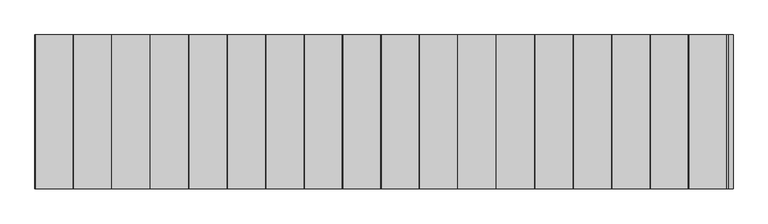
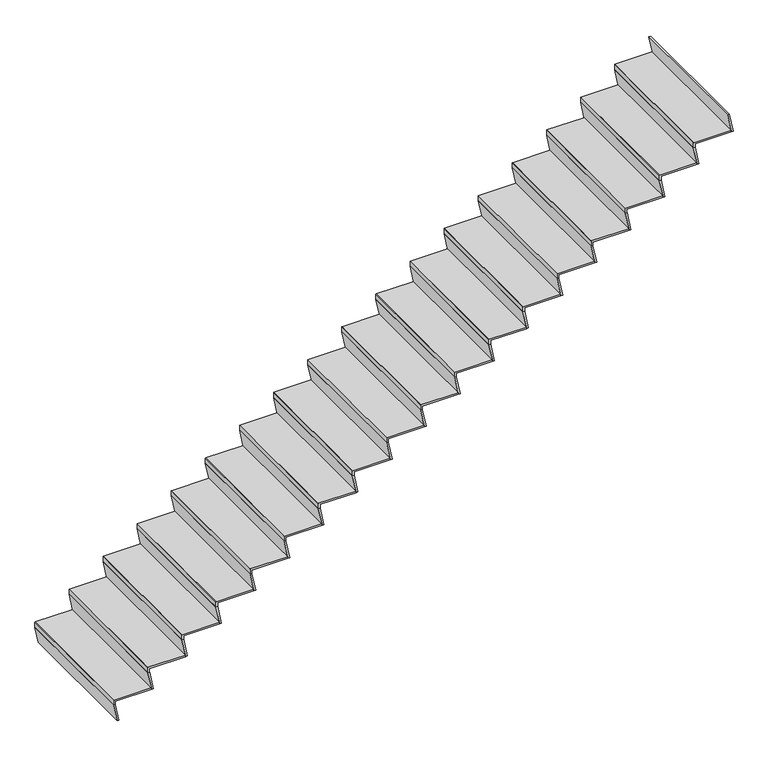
"""IFC4 building model written with IfcOpenShell, lengths in millimetres: stair flight geometry, Forte_StairNosingRun_12.5mmTread_Raked."""

import ifcopenshell
import ifcopenshell.guid

model = None  # the IFC model being written
_history = None  # IfcOwnerHistory: only IFC2X3 demands one
_inside = {}  # id of a spatial element -> (the spatial element, [elements in it])
_under = {}  # id of a project, library or spatial element -> (it, [spatial elements below it])
_declared = {}  # id of a project -> (the project, [libraries it declares])
_typed = {}  # id of a type object -> (the type object, [elements of that type])
_made_of = {}  # id of a material, layer set ... -> (it, [elements and type objects made of it])


def new_model(schema):
    """Start an empty IFC model of exactly this schema.

    Asked for "IFC4X3", IfcOpenShell would pick the latest addendum, in which some entities
    have other attributes; the version numbers below select the first issue.
    IFC2X3 requires an IfcOwnerHistory on every rooted entity: one is made here for all.
    """
    global model, _history
    if schema == "IFC4X3":
        model = ifcopenshell.file(schema_version=(4, 3, 0, 0))
    else:
        model = ifcopenshell.file(schema=schema)
    _inside.clear()
    _under.clear()
    _declared.clear()
    _typed.clear()
    _made_of.clear()
    _history = None
    if model.schema == "IFC2X3":
        org = make("IfcOrganization", Name="unknown")
        user = make(
            "IfcPersonAndOrganization",
            ThePerson=make("IfcPerson", FamilyName="unknown"),
            TheOrganization=org,
        )
        app = make(
            "IfcApplication",
            ApplicationDeveloper=org,
            Version="unknown",
            ApplicationFullName="unknown",
            ApplicationIdentifier="unknown",
        )
        _history = make(
            "IfcOwnerHistory",
            OwningUser=user,
            OwningApplication=app,
            ChangeAction="ADDED",
            CreationDate=0,
        )
    return model


def make(cls, **values):
    """One entity of the class cls with the attributes given. An attribute that is None is left unset."""
    return model.create_entity(
        cls, **{name: value for name, value in values.items() if value is not None}
    )


def rooted(cls, **values):
    """An entity with a GlobalId (a new one), such as an element, a storey or a relation."""
    return make(cls, GlobalId=ifcopenshell.guid.new(), OwnerHistory=_history, **values)


def si_unit(unit_type, name, prefix=None):
    """IfcSIUnit, for example si_unit("LENGTHUNIT", "METRE", prefix="MILLI")."""
    return make("IfcSIUnit", UnitType=unit_type, Prefix=prefix, Name=name)


def assignment(units):
    """IfcUnitAssignment: the units of a project."""
    return None if units is None else make("IfcUnitAssignment", Units=units)


def point(xyz):
    """IfcCartesianPoint."""
    return None if xyz is None else make("IfcCartesianPoint", Coordinates=xyz)


def direction(xyz):
    """IfcDirection."""
    return None if xyz is None else make("IfcDirection", DirectionRatios=xyz)


def frame(location, z_axis=None, x_axis=None):
    """IfcAxis2Placement3D, a coordinate frame: its origin and axes. An axis left out is left unset."""
    return make(
        "IfcAxis2Placement3D",
        Location=point(location),
        Axis=direction(z_axis),
        RefDirection=direction(x_axis),
    )


def frame_2d(location, x_axis=None):
    """IfcAxis2Placement2D, a coordinate frame in the plane: its origin and x axis."""
    return make(
        "IfcAxis2Placement2D", Location=point(location), RefDirection=direction(x_axis)
    )


def origin():
    """The frame at (0, 0, 0) with its axes left unset."""
    return frame((0.0, 0.0, 0.0))


def place(relative_to, where):
    """IfcLocalPlacement: puts the frame where relative to a parent placement (None: the world)."""
    return make(
        "IfcLocalPlacement", PlacementRelTo=relative_to, RelativePlacement=where
    )


def context(
    kind, dimensions, precision=None, world=None, true_north=None, identifier=None
):
    """IfcGeometricRepresentationContext, for example the 3D "Model" context."""
    return make(
        "IfcGeometricRepresentationContext",
        ContextIdentifier=identifier,
        ContextType=kind,
        CoordinateSpaceDimension=dimensions,
        Precision=precision,
        WorldCoordinateSystem=world,
        TrueNorth=true_north,
    )


def project(units=None, contexts=None):
    """IfcProject with its units and contexts."""
    return rooted(
        "IfcProject",
        Name="project",
        RepresentationContexts=contexts,
        UnitsInContext=assignment(units),
    )


def spatial(cls, under=None, at=None, **own):
    """A site, building, storey or space (cls), placed at a placement, below another one or the project."""
    s = rooted(cls, ObjectPlacement=at, **own)
    if under is not None:
        _under.setdefault(under.id(), (under, []))[1].append(s)
    return s


def polyline(points):
    """IfcPolyline through the points."""
    return make("IfcPolyline", Points=[point(p) for p in points])


def circle_curve(where, radius):
    """IfcCircle in the frame where."""
    return make("IfcCircle", Position=where, Radius=radius)


def trimmed(basis, trim1, trim2, sense, master):
    """IfcTrimmedCurve: the piece of a basis curve between two trims."""
    return make(
        "IfcTrimmedCurve",
        BasisCurve=basis,
        Trim1=trim1,
        Trim2=trim2,
        SenseAgreement=sense,
        MasterRepresentation=master,
    )


def segment(curve, same_sense, transition):
    """IfcCompositeCurveSegment."""
    return make(
        "IfcCompositeCurveSegment",
        Transition=transition,
        SameSense=same_sense,
        ParentCurve=curve,
    )


def composite_curve(segments, self_intersect=None):
    """IfcCompositeCurve: segments joined end to end."""
    return make("IfcCompositeCurve", Segments=segments, SelfIntersect=self_intersect)


def outline(outer, holes=None, kind="AREA"):
    """IfcArbitraryClosedProfileDef: a profile drawn as a closed curve; with holes, ...WithVoids."""
    if holes is None:
        return make("IfcArbitraryClosedProfileDef", ProfileType=kind, OuterCurve=outer)
    return make(
        "IfcArbitraryProfileDefWithVoids",
        ProfileType=kind,
        OuterCurve=outer,
        InnerCurves=holes,
    )


def extrude(swept, where, along, depth):
    """IfcExtrudedAreaSolid: the profile swept, set in the frame where, extruded along a direction by depth."""
    return make(
        "IfcExtrudedAreaSolid",
        SweptArea=swept,
        Position=where,
        ExtrudedDirection=direction(along),
        Depth=depth,
    )


def shape(context_of_items, identifier, shape_type, items):
    """IfcShapeRepresentation: the items that make up one representation, for example the "Body"."""
    return make(
        "IfcShapeRepresentation",
        ContextOfItems=context_of_items,
        RepresentationIdentifier=identifier,
        RepresentationType=shape_type,
        Items=items,
    )


def source(mapping_origin, context_of_items, identifier, shape_type, items):
    """IfcRepresentationMap: a shape defined once, which mapped items show again and again."""
    return make(
        "IfcRepresentationMap",
        MappingOrigin=mapping_origin,
        MappedRepresentation=shape(context_of_items, identifier, shape_type, items),
    )


def transform(
    local_origin,
    x_axis=None,
    y_axis=None,
    z_axis=None,
    scale=None,
    scale2=None,
    scale3=None,
    uniform=True,
):
    """IfcCartesianTransformationOperator3D, or its non-uniform kind. x_axis, y_axis, z_axis: its Axis1, 2, 3."""
    if uniform:
        return make(
            "IfcCartesianTransformationOperator3D",
            Axis1=direction(x_axis),
            Axis2=direction(y_axis),
            LocalOrigin=point(local_origin),
            Scale=scale,
            Axis3=direction(z_axis),
        )
    return make(
        "IfcCartesianTransformationOperator3DnonUniform",
        Axis1=direction(x_axis),
        Axis2=direction(y_axis),
        LocalOrigin=point(local_origin),
        Scale=scale,
        Axis3=direction(z_axis),
        Scale2=scale2,
        Scale3=scale3,
    )


def mapped(mapping_source, mapping_target):
    """IfcMappedItem: shows the shape of a source again, moved by a transform."""
    return make(
        "IfcMappedItem", MappingSource=mapping_source, MappingTarget=mapping_target
    )


def made_of(thing, what):
    """Note that an element or type object is made of a material, layer set ...; save() writes the relation."""
    if what is not None:
        _made_of.setdefault(what.id(), (what, []))[1].append(thing)
    return thing


def element(
    cls,
    number,
    at=None,
    inside=None,
    cuts=None,
    type_object=None,
    material=None,
    context=None,
    identifier="Body",
    shape_type=None,
    held_by="IfcProductDefinitionShape",
    body=None,
    shapes=None,
    **own,
):
    """One element of the class cls, such as IfcWall. Its Tag is "e" and its number.

    at: its placement. inside: the storey or other place that contains it. cuts: it is an
    opening in that element (IfcRelVoidsElement). A single representation is given by context,
    identifier, shape_type and body (its items); several are given by shapes. held_by: the class
    of the entity that holds the representations. save() writes the other relations.
    """
    e = rooted(cls, Tag="e%d" % number, ObjectPlacement=at, **own)
    if body is not None:
        shapes = [shape(context, identifier, shape_type, body)]
    if shapes is not None:
        e.Representation = make(held_by, Representations=shapes)
    if inside is not None:
        _inside.setdefault(inside.id(), (inside, []))[1].append(e)
    if cuts is not None:
        rooted(
            "IfcRelVoidsElement", RelatingBuildingElement=cuts, RelatedOpeningElement=e
        )
    if type_object is not None:
        _typed.setdefault(type_object.id(), (type_object, []))[1].append(e)
    return made_of(e, material)


def aggregate(whole, parts):
    """IfcRelAggregates: a whole, such as a stair, and the parts it consists of."""
    return rooted("IfcRelAggregates", RelatingObject=whole, RelatedObjects=parts)


def save(model, path):
    """Write the relations noted so far, then the file.

    IfcRelAggregates (storeys below a building ...), IfcRelContainedInSpatialStructure (elements
    in a storey), IfcRelDefinesByType, IfcRelAssociatesMaterial and IfcRelDeclares: one each for
    every whole, place, type object, material and project.
    """
    for whole, parts in _under.values():
        aggregate(whole, parts)
    for where, things in _inside.values():
        rooted(
            "IfcRelContainedInSpatialStructure",
            RelatedElements=things,
            RelatingStructure=where,
        )
    for kind, things in _typed.values():
        rooted("IfcRelDefinesByType", RelatedObjects=things, RelatingType=kind)
    for what, things in _made_of.values():
        rooted("IfcRelAssociatesMaterial", RelatedObjects=things, RelatingMaterial=what)
    for by, libraries in _declared.values():
        rooted("IfcRelDeclares", RelatingContext=by, RelatedDefinitions=libraries)
    model.write(path)


def stair_flight_66f02654(model_context):
    return source(origin(), model_context, "Body", "SweptSolid", [
        extrude(outline(composite_curve([segment(polyline([(166.6666667, 4211.2016912), (166.6666667, 3937.4016912)]), True, "CONTINUOUS"), segment(trimmed(circle_curve(frame_2d((165.4666667, 3937.4016912)), 1.2), [point((166.6666667, 3937.4016912))], [point((165.4666667, 3936.2016912))], False, "CARTESIAN"), True, "CONTINUOUS"), segment(polyline([(165.4666667, 3936.2016912), (126.6666667, 3936.2016912), (126.6666667, 3948.7016912), (154.1666667, 3948.7016912), (154.1666667, 4213.6687964), (166.6666667, 4211.2016912)]), True, "CONTINUOUS")], self_intersect=False)), frame((0.0, 5330.793368, 0.0), z_axis=(0.0, 1.0, 0.0), x_axis=(0.0, 0.0, 1.0)), (0.0, 0.0, 1.0), 1000.0),
        extrude(outline(polyline([(126.6666667, 3936.2016912), (0.0, 3961.2016912), (0.0, 3973.9428296), (126.6666667, 3948.9428296), (126.6666667, 3936.2016912)])), frame((0.0, 5330.793368, 0.0), z_axis=(0.0, 1.0, 0.0), x_axis=(0.0, 0.0, 1.0)), (0.0, 0.0, 1.0), 1000.0),
        extrude(outline(polyline([(293.3333333, 4186.2016912), (154.1666667, 4213.6687964), (154.1666667, 4226.4099349), (293.3333333, 4198.9428296), (293.3333333, 4186.2016912)])), frame((0.0, 5330.793368, 0.0), z_axis=(0.0, 1.0, 0.0), x_axis=(0.0, 0.0, 1.0)), (0.0, 0.0, 1.0), 1000.0),
        extrude(outline(composite_curve([segment(polyline([(333.3333333, 4461.2016912), (333.3333333, 4187.4016912)]), True, "CONTINUOUS"), segment(trimmed(circle_curve(frame_2d((332.1333333, 4187.4016912)), 1.2), [point((333.3333333, 4187.4016912))], [point((332.1333333, 4186.2016912))], False, "CARTESIAN"), True, "CONTINUOUS"), segment(polyline([(332.1333333, 4186.2016912), (293.3333333, 4186.2016912), (293.3333333, 4198.7016912), (320.8333333, 4198.7016912), (320.8333333, 4463.6687964), (333.3333333, 4461.2016912)]), True, "CONTINUOUS")], self_intersect=False)), frame((0.0, 5330.793368, 0.0), z_axis=(0.0, 1.0, 0.0), x_axis=(0.0, 0.0, 1.0)), (0.0, 0.0, 1.0), 1000.0),
        extrude(outline(polyline([(460.0, 4436.2016912), (320.8333333, 4463.6687964), (320.8333333, 4476.4099349), (460.0, 4448.9428296), (460.0, 4436.2016912)])), frame((0.0, 5330.793368, 0.0), z_axis=(0.0, 1.0, 0.0), x_axis=(0.0, 0.0, 1.0)), (0.0, 0.0, 1.0), 1000.0),
        extrude(outline(composite_curve([segment(polyline([(500.0, 4711.2016912), (500.0, 4437.4016912)]), True, "CONTINUOUS"), segment(trimmed(circle_curve(frame_2d((498.8, 4437.4016912)), 1.2), [point((500.0, 4437.4016912))], [point((498.8, 4436.2016912))], False, "CARTESIAN"), True, "CONTINUOUS"), segment(polyline([(498.8, 4436.2016912), (460.0, 4436.2016912), (460.0, 4448.7016912), (487.5, 4448.7016912), (487.5, 4713.6687964), (500.0, 4711.2016912)]), True, "CONTINUOUS")], self_intersect=False)), frame((0.0, 5330.793368, 0.0), z_axis=(0.0, 1.0, 0.0), x_axis=(0.0, 0.0, 1.0)), (0.0, 0.0, 1.0), 1000.0),
        extrude(outline(polyline([(626.6666667, 4686.2016912), (487.5, 4713.6687964), (487.5, 4726.4099349), (626.6666667, 4698.9428296), (626.6666667, 4686.2016912)])), frame((0.0, 5330.793368, 0.0), z_axis=(0.0, 1.0, 0.0), x_axis=(0.0, 0.0, 1.0)), (0.0, 0.0, 1.0), 1000.0),
        extrude(outline(composite_curve([segment(polyline([(666.6666667, 4961.2016912), (666.6666667, 4687.4016912)]), True, "CONTINUOUS"), segment(trimmed(circle_curve(frame_2d((665.4666667, 4687.4016912)), 1.2), [point((666.6666667, 4687.4016912))], [point((665.4666667, 4686.2016912))], False, "CARTESIAN"), True, "CONTINUOUS"), segment(polyline([(665.4666667, 4686.2016912), (626.6666667, 4686.2016912), (626.6666667, 4698.7016912), (654.1666667, 4698.7016912), (654.1666667, 4963.6687964), (666.6666667, 4961.2016912)]), True, "CONTINUOUS")], self_intersect=False)), frame((0.0, 5330.793368, 0.0), z_axis=(0.0, 1.0, 0.0), x_axis=(0.0, 0.0, 1.0)), (0.0, 0.0, 1.0), 1000.0),
        extrude(outline(polyline([(793.3333333, 4936.2016912), (654.1666667, 4963.6687964), (654.1666667, 4976.4099349), (793.3333333, 4948.9428296), (793.3333333, 4936.2016912)])), frame((0.0, 5330.793368, 0.0), z_axis=(0.0, 1.0, 0.0), x_axis=(0.0, 0.0, 1.0)), (0.0, 0.0, 1.0), 1000.0),
        extrude(outline(composite_curve([segment(polyline([(833.3333333, 5211.2016912), (833.3333333, 4937.4016912)]), True, "CONTINUOUS"), segment(trimmed(circle_curve(frame_2d((832.1333333, 4937.4016912)), 1.2), [point((833.3333333, 4937.4016912))], [point((832.1333333, 4936.2016912))], False, "CARTESIAN"), True, "CONTINUOUS"), segment(polyline([(832.1333333, 4936.2016912), (793.3333333, 4936.2016912), (793.3333333, 4948.7016912), (820.8333333, 4948.7016912), (820.8333333, 5213.6687964), (833.3333333, 5211.2016912)]), True, "CONTINUOUS")], self_intersect=False)), frame((0.0, 5330.793368, 0.0), z_axis=(0.0, 1.0, 0.0), x_axis=(0.0, 0.0, 1.0)), (0.0, 0.0, 1.0), 1000.0),
        extrude(outline(polyline([(960.0, 5186.2016912), (820.8333333, 5213.6687964), (820.8333333, 5226.4099349), (960.0, 5198.9428296), (960.0, 5186.2016912)])), frame((0.0, 5330.793368, 0.0), z_axis=(0.0, 1.0, 0.0), x_axis=(0.0, 0.0, 1.0)), (0.0, 0.0, 1.0), 1000.0),
        extrude(outline(composite_curve([segment(polyline([(1000.0, 5461.2016912), (1000.0, 5187.4016912)]), True, "CONTINUOUS"), segment(trimmed(circle_curve(frame_2d((998.8, 5187.4016912)), 1.2), [point((1000.0, 5187.4016912))], [point((998.8, 5186.2016912))], False, "CARTESIAN"), True, "CONTINUOUS"), segment(polyline([(998.8, 5186.2016912), (960.0, 5186.2016912), (960.0, 5198.7016912), (987.5, 5198.7016912), (987.5, 5463.6687964), (1000.0, 5461.2016912)]), True, "CONTINUOUS")], self_intersect=False)), frame((0.0, 5330.793368, 0.0), z_axis=(0.0, 1.0, 0.0), x_axis=(0.0, 0.0, 1.0)), (0.0, 0.0, 1.0), 1000.0),
        extrude(outline(polyline([(1126.6666667, 5436.2016912), (987.5, 5463.6687964), (987.5, 5476.4099349), (1126.6666667, 5448.9428296), (1126.6666667, 5436.2016912)])), frame((0.0, 5330.793368, 0.0), z_axis=(0.0, 1.0, 0.0), x_axis=(0.0, 0.0, 1.0)), (0.0, 0.0, 1.0), 1000.0),
        extrude(outline(composite_curve([segment(polyline([(1166.6666667, 5711.2016912), (1166.6666667, 5437.4016912)]), True, "CONTINUOUS"), segment(trimmed(circle_curve(frame_2d((1165.4666667, 5437.4016912)), 1.2), [point((1166.6666667, 5437.4016912))], [point((1165.4666667, 5436.2016912))], False, "CARTESIAN"), True, "CONTINUOUS"), segment(polyline([(1165.4666667, 5436.2016912), (1126.6666667, 5436.2016912), (1126.6666667, 5448.7016912), (1154.1666667, 5448.7016912), (1154.1666667, 5713.6687964), (1166.6666667, 5711.2016912)]), True, "CONTINUOUS")], self_intersect=False)), frame((0.0, 5330.793368, 0.0), z_axis=(0.0, 1.0, 0.0), x_axis=(0.0, 0.0, 1.0)), (0.0, 0.0, 1.0), 1000.0),
        extrude(outline(polyline([(1293.3333333, 5686.2016912), (1154.1666667, 5713.6687964), (1154.1666667, 5726.4099349), (1293.3333333, 5698.9428296), (1293.3333333, 5686.2016912)])), frame((0.0, 5330.793368, 0.0), z_axis=(0.0, 1.0, 0.0), x_axis=(0.0, 0.0, 1.0)), (0.0, 0.0, 1.0), 1000.0),
        extrude(outline(composite_curve([segment(polyline([(1333.3333333, 5961.2016912), (1333.3333333, 5687.4016912)]), True, "CONTINUOUS"), segment(trimmed(circle_curve(frame_2d((1332.1333333, 5687.4016912)), 1.2), [point((1333.3333333, 5687.4016912))], [point((1332.1333333, 5686.2016912))], False, "CARTESIAN"), True, "CONTINUOUS"), segment(polyline([(1332.1333333, 5686.2016912), (1293.3333333, 5686.2016912), (1293.3333333, 5698.7016912), (1320.8333333, 5698.7016912), (1320.8333333, 5963.6687964), (1333.3333333, 5961.2016912)]), True, "CONTINUOUS")], self_intersect=False)), frame((0.0, 5330.793368, 0.0), z_axis=(0.0, 1.0, 0.0), x_axis=(0.0, 0.0, 1.0)), (0.0, 0.0, 1.0), 1000.0),
        extrude(outline(polyline([(1460.0, 5936.2016912), (1320.8333333, 5963.6687964), (1320.8333333, 5976.4099349), (1460.0, 5948.9428296), (1460.0, 5936.2016912)])), frame((0.0, 5330.793368, 0.0), z_axis=(0.0, 1.0, 0.0), x_axis=(0.0, 0.0, 1.0)), (0.0, 0.0, 1.0), 1000.0),
        extrude(outline(composite_curve([segment(polyline([(1500.0, 6211.2016912), (1500.0, 5937.4016912)]), True, "CONTINUOUS"), segment(trimmed(circle_curve(frame_2d((1498.8, 5937.4016912)), 1.2), [point((1500.0, 5937.4016912))], [point((1498.8, 5936.2016912))], False, "CARTESIAN"), True, "CONTINUOUS"), segment(polyline([(1498.8, 5936.2016912), (1460.0, 5936.2016912), (1460.0, 5948.7016912), (1487.5, 5948.7016912), (1487.5, 6213.6687964), (1500.0, 6211.2016912)]), True, "CONTINUOUS")], self_intersect=False)), frame((0.0, 5330.793368, 0.0), z_axis=(0.0, 1.0, 0.0), x_axis=(0.0, 0.0, 1.0)), (0.0, 0.0, 1.0), 1000.0),
        extrude(outline(polyline([(1626.6666667, 6186.2016912), (1487.5, 6213.6687964), (1487.5, 6226.4099349), (1626.6666667, 6198.9428296), (1626.6666667, 6186.2016912)])), frame((0.0, 5330.793368, 0.0), z_axis=(0.0, 1.0, 0.0), x_axis=(0.0, 0.0, 1.0)), (0.0, 0.0, 1.0), 1000.0),
        extrude(outline(composite_curve([segment(polyline([(1666.6666667, 6461.2016912), (1666.6666667, 6187.4016912)]), True, "CONTINUOUS"), segment(trimmed(circle_curve(frame_2d((1665.4666667, 6187.4016912)), 1.2), [point((1666.6666667, 6187.4016912))], [point((1665.4666667, 6186.2016912))], False, "CARTESIAN"), True, "CONTINUOUS"), segment(polyline([(1665.4666667, 6186.2016912), (1626.6666667, 6186.2016912), (1626.6666667, 6198.7016912), (1654.1666667, 6198.7016912), (1654.1666667, 6463.6687964), (1666.6666667, 6461.2016912)]), True, "CONTINUOUS")], self_intersect=False)), frame((0.0, 5330.793368, 0.0), z_axis=(0.0, 1.0, 0.0), x_axis=(0.0, 0.0, 1.0)), (0.0, 0.0, 1.0), 1000.0),
        extrude(outline(polyline([(1793.3333333, 6436.2016912), (1654.1666667, 6463.6687964), (1654.1666667, 6476.4099349), (1793.3333333, 6448.9428296), (1793.3333333, 6436.2016912)])), frame((0.0, 5330.793368, 0.0), z_axis=(0.0, 1.0, 0.0), x_axis=(0.0, 0.0, 1.0)), (0.0, 0.0, 1.0), 1000.0),
        extrude(outline(composite_curve([segment(polyline([(1833.3333333, 6711.2016912), (1833.3333333, 6437.4016912)]), True, "CONTINUOUS"), segment(trimmed(circle_curve(frame_2d((1832.1333333, 6437.4016912)), 1.2), [point((1833.3333333, 6437.4016912))], [point((1832.1333333, 6436.2016912))], False, "CARTESIAN"), True, "CONTINUOUS"), segment(polyline([(1832.1333333, 6436.2016912), (1793.3333333, 6436.2016912), (1793.3333333, 6448.7016912), (1820.8333333, 6448.7016912), (1820.8333333, 6713.6687964), (1833.3333333, 6711.2016912)]), True, "CONTINUOUS")], self_intersect=False)), frame((0.0, 5330.793368, 0.0), z_axis=(0.0, 1.0, 0.0), x_axis=(0.0, 0.0, 1.0)), (0.0, 0.0, 1.0), 1000.0),
        extrude(outline(polyline([(1960.0, 6686.2016912), (1820.8333333, 6713.6687964), (1820.8333333, 6726.4099349), (1960.0, 6698.9428296), (1960.0, 6686.2016912)])), frame((0.0, 5330.793368, 0.0), z_axis=(0.0, 1.0, 0.0), x_axis=(0.0, 0.0, 1.0)), (0.0, 0.0, 1.0), 1000.0),
        extrude(outline(composite_curve([segment(polyline([(2000.0, 6961.2016912), (2000.0, 6687.4016912)]), True, "CONTINUOUS"), segment(trimmed(circle_curve(frame_2d((1998.8, 6687.4016912)), 1.2), [point((2000.0, 6687.4016912))], [point((1998.8, 6686.2016912))], False, "CARTESIAN"), True, "CONTINUOUS"), segment(polyline([(1998.8, 6686.2016912), (1960.0, 6686.2016912), (1960.0, 6698.7016912), (1987.5, 6698.7016912), (1987.5, 6963.6687964), (2000.0, 6961.2016912)]), True, "CONTINUOUS")], self_intersect=False)), frame((0.0, 5330.793368, 0.0), z_axis=(0.0, 1.0, 0.0), x_axis=(0.0, 0.0, 1.0)), (0.0, 0.0, 1.0), 1000.0),
        extrude(outline(polyline([(2126.6666667, 6936.2016912), (1987.5, 6963.6687964), (1987.5, 6976.4099349), (2126.6666667, 6948.9428296), (2126.6666667, 6936.2016912)])), frame((0.0, 5330.793368, 0.0), z_axis=(0.0, 1.0, 0.0), x_axis=(0.0, 0.0, 1.0)), (0.0, 0.0, 1.0), 1000.0),
        extrude(outline(composite_curve([segment(polyline([(2166.6666667, 7211.2016912), (2166.6666667, 6937.4016912)]), True, "CONTINUOUS"), segment(trimmed(circle_curve(frame_2d((2165.4666667, 6937.4016912)), 1.2), [point((2166.6666667, 6937.4016912))], [point((2165.4666667, 6936.2016912))], False, "CARTESIAN"), True, "CONTINUOUS"), segment(polyline([(2165.4666667, 6936.2016912), (2126.6666667, 6936.2016912), (2126.6666667, 6948.7016912), (2154.1666667, 6948.7016912), (2154.1666667, 7213.6687964), (2166.6666667, 7211.2016912)]), True, "CONTINUOUS")], self_intersect=False)), frame((0.0, 5330.793368, 0.0), z_axis=(0.0, 1.0, 0.0), x_axis=(0.0, 0.0, 1.0)), (0.0, 0.0, 1.0), 1000.0),
        extrude(outline(polyline([(2293.3333333, 7186.2016912), (2154.1666667, 7213.6687964), (2154.1666667, 7226.4099349), (2293.3333333, 7198.9428296), (2293.3333333, 7186.2016912)])), frame((0.0, 5330.793368, 0.0), z_axis=(0.0, 1.0, 0.0), x_axis=(0.0, 0.0, 1.0)), (0.0, 0.0, 1.0), 1000.0),
        extrude(outline(composite_curve([segment(polyline([(2333.3333333, 7461.2016912), (2333.3333333, 7187.4016912)]), True, "CONTINUOUS"), segment(trimmed(circle_curve(frame_2d((2332.1333333, 7187.4016912)), 1.2), [point((2333.3333333, 7187.4016912))], [point((2332.1333333, 7186.2016912))], False, "CARTESIAN"), True, "CONTINUOUS"), segment(polyline([(2332.1333333, 7186.2016912), (2293.3333333, 7186.2016912), (2293.3333333, 7198.7016912), (2320.8333333, 7198.7016912), (2320.8333333, 7463.6687964), (2333.3333333, 7461.2016912)]), True, "CONTINUOUS")], self_intersect=False)), frame((0.0, 5330.793368, 0.0), z_axis=(0.0, 1.0, 0.0), x_axis=(0.0, 0.0, 1.0)), (0.0, 0.0, 1.0), 1000.0),
        extrude(outline(polyline([(2460.0, 7436.2016912), (2320.8333333, 7463.6687964), (2320.8333333, 7476.4099349), (2460.0, 7448.9428296), (2460.0, 7436.2016912)])), frame((0.0, 5330.793368, 0.0), z_axis=(0.0, 1.0, 0.0), x_axis=(0.0, 0.0, 1.0)), (0.0, 0.0, 1.0), 1000.0),
        extrude(outline(composite_curve([segment(polyline([(2500.0, 7711.2016912), (2500.0, 7437.4016912)]), True, "CONTINUOUS"), segment(trimmed(circle_curve(frame_2d((2498.8, 7437.4016912)), 1.2), [point((2500.0, 7437.4016912))], [point((2498.8, 7436.2016912))], False, "CARTESIAN"), True, "CONTINUOUS"), segment(polyline([(2498.8, 7436.2016912), (2460.0, 7436.2016912), (2460.0, 7448.7016912), (2487.5, 7448.7016912), (2487.5, 7713.6687964), (2500.0, 7711.2016912)]), True, "CONTINUOUS")], self_intersect=False)), frame((0.0, 5330.793368, 0.0), z_axis=(0.0, 1.0, 0.0), x_axis=(0.0, 0.0, 1.0)), (0.0, 0.0, 1.0), 1000.0),
        extrude(outline(polyline([(2626.6666667, 7686.2016912), (2487.5, 7713.6687964), (2487.5, 7726.4099349), (2626.6666667, 7698.9428296), (2626.6666667, 7686.2016912)])), frame((0.0, 5330.793368, 0.0), z_axis=(0.0, 1.0, 0.0), x_axis=(0.0, 0.0, 1.0)), (0.0, 0.0, 1.0), 1000.0),
        extrude(outline(composite_curve([segment(polyline([(2666.6666667, 7961.2016912), (2666.6666667, 7687.4016912)]), True, "CONTINUOUS"), segment(trimmed(circle_curve(frame_2d((2665.4666667, 7687.4016912)), 1.2), [point((2666.6666667, 7687.4016912))], [point((2665.4666667, 7686.2016912))], False, "CARTESIAN"), True, "CONTINUOUS"), segment(polyline([(2665.4666667, 7686.2016912), (2626.6666667, 7686.2016912), (2626.6666667, 7698.7016912), (2654.1666667, 7698.7016912), (2654.1666667, 7963.6687964), (2666.6666667, 7961.2016912)]), True, "CONTINUOUS")], self_intersect=False)), frame((0.0, 5330.793368, 0.0), z_axis=(0.0, 1.0, 0.0), x_axis=(0.0, 0.0, 1.0)), (0.0, 0.0, 1.0), 1000.0),
        extrude(outline(polyline([(2793.3333333, 7936.2016912), (2654.1666667, 7963.6687964), (2654.1666667, 7976.4099349), (2793.3333333, 7948.9428296), (2793.3333333, 7936.2016912)])), frame((0.0, 5330.793368, 0.0), z_axis=(0.0, 1.0, 0.0), x_axis=(0.0, 0.0, 1.0)), (0.0, 0.0, 1.0), 1000.0),
        extrude(outline(composite_curve([segment(polyline([(2833.3333333, 8211.2016912), (2833.3333333, 7937.4016912)]), True, "CONTINUOUS"), segment(trimmed(circle_curve(frame_2d((2832.1333333, 7937.4016912)), 1.2), [point((2833.3333333, 7937.4016912))], [point((2832.1333333, 7936.2016912))], False, "CARTESIAN"), True, "CONTINUOUS"), segment(polyline([(2832.1333333, 7936.2016912), (2793.3333333, 7936.2016912), (2793.3333333, 7948.7016912), (2820.8333333, 7948.7016912), (2820.8333333, 8213.6687964), (2833.3333333, 8211.2016912)]), True, "CONTINUOUS")], self_intersect=False)), frame((0.0, 5330.793368, 0.0), z_axis=(0.0, 1.0, 0.0), x_axis=(0.0, 0.0, 1.0)), (0.0, 0.0, 1.0), 1000.0),
        extrude(outline(polyline([(2960.0, 8186.2016912), (2820.8333333, 8213.6687964), (2820.8333333, 8226.4099349), (2960.0, 8198.9428296), (2960.0, 8186.2016912)])), frame((0.0, 5330.793368, 0.0), z_axis=(0.0, 1.0, 0.0), x_axis=(0.0, 0.0, 1.0)), (0.0, 0.0, 1.0), 1000.0),
        extrude(outline(polyline([(3126.6666667, 8436.2016912), (2987.5, 8463.6687964), (2987.5, 8476.4099349), (3126.6666667, 8448.9428296), (3126.6666667, 8436.2016912)])), frame((0.0, 5330.793368, 0.0), z_axis=(0.0, 1.0, 0.0), x_axis=(0.0, 0.0, 1.0)), (0.0, 0.0, 1.0), 1000.0),
        extrude(outline(composite_curve([segment(polyline([(3000.0, 8461.2016912), (3000.0, 8187.4016912)]), True, "CONTINUOUS"), segment(trimmed(circle_curve(frame_2d((2998.8, 8187.4016912)), 1.2), [point((3000.0, 8187.4016912))], [point((2998.8, 8186.2016912))], False, "CARTESIAN"), True, "CONTINUOUS"), segment(polyline([(2998.8, 8186.2016912), (2960.0, 8186.2016912), (2960.0, 8198.7016912), (2987.5, 8198.7016912), (2987.5, 8463.6687964), (3000.0, 8461.2016912)]), True, "CONTINUOUS")], self_intersect=False)), frame((0.0, 5330.793368, 0.0), z_axis=(0.0, 1.0, 0.0), x_axis=(0.0, 0.0, 1.0)), (0.0, 0.0, 1.0), 1000.0),
    ])


if __name__ == "__main__":
    model = new_model("IFC4")
    model_context = context("Model", 3, world=origin())
    ifc_project = project(units=[si_unit("LENGTHUNIT", "METRE", prefix="MILLI")], contexts=[model_context])
    site = spatial("IfcSite", under=ifc_project)
    building = spatial("IfcBuilding", under=site)
    placement = place(None, origin())
    stair_flight_shape = stair_flight_66f02654(model_context)
    element("IfcStairFlight", 1, ObjectType="Forte_StairNosingRun_12.5mmTread_Raked", at=placement, inside=building, context=model_context, shape_type="MappedRepresentation", body=[
        mapped(stair_flight_shape, transform((0.0, 0.0, 0.0), x_axis=(1.0, 0.0, 0.0), y_axis=(0.0, 1.0, 0.0), z_axis=(0.0, 0.0, 1.0))),
    ])
    save(model, "model.ifc")
